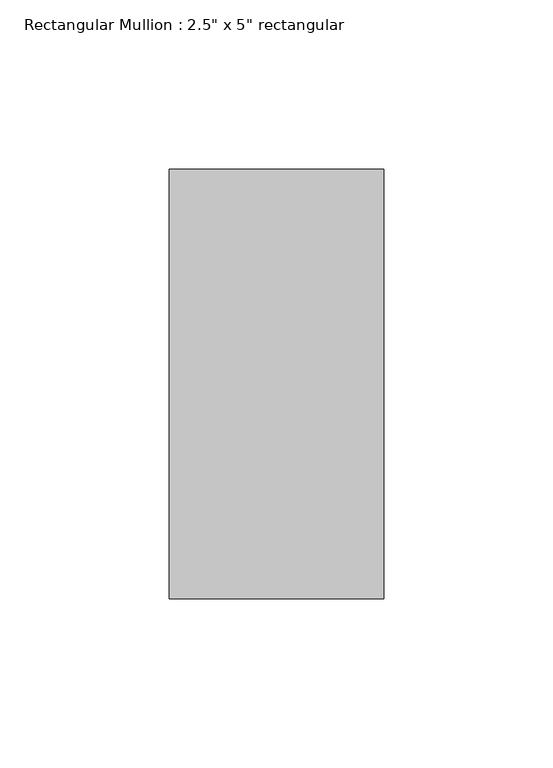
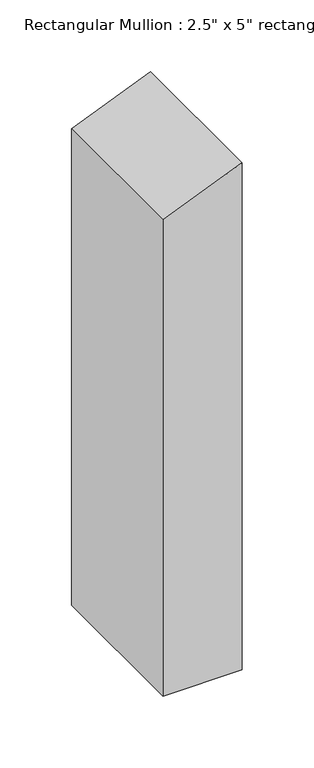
"""IFC4 building model written with IfcOpenShell, lengths in millimetres: member geometry."""

from ifc_helpers import new_model, si_unit, frame, origin, place, context, project, spatial, polyline, outline, extrude, source, transform, mapped, element, save


def member_22014f07(model_context):
    return source(origin(), model_context, "Body", "SweptSolid", [
        extrude(outline(polyline([(0.0, 0.0), (-26.3025612, -63.5), (-431.0522938, -63.5), (-431.0522938, 0.0), (0.0, 0.0)])), frame((0.0, -63.5, 0.0), z_axis=(0.0, 1.0, 0.0), x_axis=(0.0, 0.0, 1.0)), (0.0, 0.0, 1.0), 127.0),
    ])


if __name__ == "__main__":
    model = new_model("IFC4")
    model_context = context("Model", 3, world=origin())
    ifc_project = project(units=[si_unit("LENGTHUNIT", "METRE", prefix="MILLI")], contexts=[model_context])
    site = spatial("IfcSite", under=ifc_project)
    building = spatial("IfcBuilding", under=site)
    placement = place(None, origin())
    member_shape = member_22014f07(model_context)
    element("IfcMember", 1, ObjectType="Rectangular Mullion : 2.5\" x 5\" rectangular", at=placement, inside=building, context=model_context, shape_type="MappedRepresentation", body=[
        mapped(member_shape, transform((0.0, 0.0, 0.0), x_axis=(1.0, 0.0, 0.0), y_axis=(0.0, 1.0, 0.0), z_axis=(0.0, 0.0, 1.0))),
    ])
    save(model, "model.ifc")
